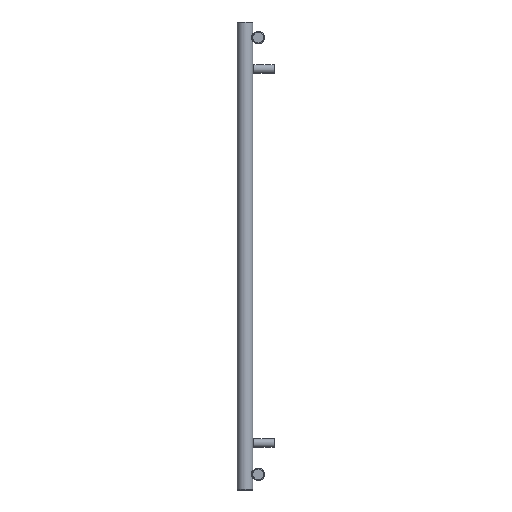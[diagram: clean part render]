
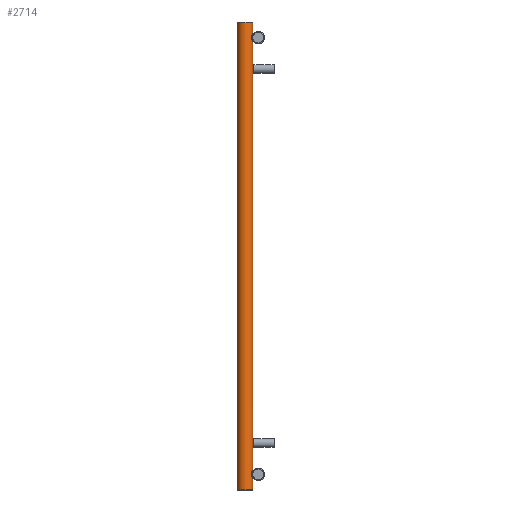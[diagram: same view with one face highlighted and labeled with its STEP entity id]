
A CAD part, left-side view. The second image highlights one B-rep face of the part: STEP entity #2714.
In plain terms, the highlighted cylindrical face has radius 20 mm (diameter 40 mm), a full revolution.
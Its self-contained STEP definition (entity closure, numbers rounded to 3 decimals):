
#194=FACE_BOUND('',#638,.T.);
#195=FACE_BOUND('',#639,.T.);
#247=LINE('',#4615,#328);
#328=VECTOR('',#3350,20.);
#409=CYLINDRICAL_SURFACE('',#2942,20.);
#448=FACE_OUTER_BOUND('',#637,.T.);
#637=EDGE_LOOP('',(#1883,#1884,#1885,#1886,#1887));
#638=EDGE_LOOP('',(#1888));
#639=EDGE_LOOP('',(#1889));
#866=B_SPLINE_CURVE_WITH_KNOTS('',3,(#4373,#4374,#4375,#4376,#4377,#4378,
#4379,#4380,#4381,#4382,#4383,#4384,#4385,#4386,#4387,#4388,#4389,#4390,
#4391,#4392),.UNSPECIFIED.,.T.,.F.,(4,1,1,1,1,1,1,1,1,1,1,1,1,1,1,1,1,4),
(-5.132,-4.765,-4.399,-3.91,
-3.788,-3.666,-3.421,-3.177,
-2.933,-2.444,-2.199,-1.955,
-1.711,-1.466,-1.1,-0.733,
-0.367,0.),.UNSPECIFIED.);
#877=B_SPLINE_CURVE_WITH_KNOTS('',3,(#4619,#4620,#4621,#4622,#4623,#4624,
#4625,#4626,#4627,#4628,#4629,#4630,#4631,#4632,#4633,#4634,#4635,#4636,
#4637,#4638),.UNSPECIFIED.,.T.,.F.,(4,1,1,1,1,1,1,1,1,1,1,1,1,1,1,1,1,4),
(-5.132,-4.765,-4.399,-3.91,
-3.788,-3.666,-3.421,-3.177,
-2.933,-2.444,-2.199,-1.955,-1.711,
-1.466,-1.1,-0.733,-0.367,
0.),.UNSPECIFIED.);
#949=CIRCLE('',#2943,20.);
#950=CIRCLE('',#2944,20.);
#951=CIRCLE('',#2945,20.);
#1171=VERTEX_POINT('',#4350);
#1185=VERTEX_POINT('',#4611);
#1186=VERTEX_POINT('',#4612);
#1187=VERTEX_POINT('',#4614);
#1188=VERTEX_POINT('',#4618);
#1453=EDGE_CURVE('',#1171,#1171,#866,.T.);
#1467=EDGE_CURVE('',#1185,#1186,#949,.T.);
#1468=EDGE_CURVE('',#1185,#1187,#247,.T.);
#1469=EDGE_CURVE('',#1187,#1187,#950,.T.);
#1470=EDGE_CURVE('',#1186,#1185,#951,.T.);
#1471=EDGE_CURVE('',#1188,#1188,#877,.T.);
#1883=ORIENTED_EDGE('',*,*,#1467,.F.);
#1884=ORIENTED_EDGE('',*,*,#1468,.T.);
#1885=ORIENTED_EDGE('',*,*,#1469,.F.);
#1886=ORIENTED_EDGE('',*,*,#1468,.F.);
#1887=ORIENTED_EDGE('',*,*,#1470,.F.);
#1888=ORIENTED_EDGE('',*,*,#1471,.F.);
#1889=ORIENTED_EDGE('',*,*,#1453,.F.);
#2714=ADVANCED_FACE('',(#448,#194,#195),#409,.T.);
#2942=AXIS2_PLACEMENT_3D('',#4610,#3346,#3347);
#2943=AXIS2_PLACEMENT_3D('',#4613,#3348,#3349);
#2944=AXIS2_PLACEMENT_3D('',#4616,#3351,#3352);
#2945=AXIS2_PLACEMENT_3D('',#4617,#3353,#3354);
#3346=DIRECTION('center_axis',(0.,0.,1.));
#3347=DIRECTION('ref_axis',(-1.,0.,0.));
#3348=DIRECTION('center_axis',(0.,0.,1.));
#3349=DIRECTION('ref_axis',(-1.,0.,0.));
#3350=DIRECTION('',(0.,0.,-1.));
#3351=DIRECTION('center_axis',(0.,0.,-1.));
#3352=DIRECTION('ref_axis',(-1.,0.,0.));
#3353=DIRECTION('center_axis',(0.,0.,1.));
#3354=DIRECTION('ref_axis',(-1.,0.,0.));
#4350=CARTESIAN_POINT('',(-550.,-20.,50.1));
#4373=CARTESIAN_POINT('Ctrl Pts',(-550.,-20.,50.1));
#4374=CARTESIAN_POINT('Ctrl Pts',(-551.611,-20.,50.1));
#4375=CARTESIAN_POINT('Ctrl Pts',(-554.831,-19.609,49.581));
#4376=CARTESIAN_POINT('Ctrl Pts',(-559.316,-17.863,46.748));
#4377=CARTESIAN_POINT('Ctrl Pts',(-561.001,-16.692,42.521));
#4378=CARTESIAN_POINT('Ctrl Pts',(-560.992,-16.709,39.163));
#4379=CARTESIAN_POINT('Ctrl Pts',(-560.668,-16.917,36.969));
#4380=CARTESIAN_POINT('Ctrl Pts',(-559.649,-17.555,34.431));
#4381=CARTESIAN_POINT('Ctrl Pts',(-557.536,-18.589,32.082));
#4382=CARTESIAN_POINT('Ctrl Pts',(-553.836,-19.82,30.088));
#4383=CARTESIAN_POINT('Ctrl Pts',(-549.419,-20.202,29.641));
#4384=CARTESIAN_POINT('Ctrl Pts',(-545.239,-19.503,30.58));
#4385=CARTESIAN_POINT('Ctrl Pts',(-542.466,-18.591,32.084));
#4386=CARTESIAN_POINT('Ctrl Pts',(-540.351,-17.553,34.428));
#4387=CARTESIAN_POINT('Ctrl Pts',(-538.927,-16.66,37.981));
#4388=CARTESIAN_POINT('Ctrl Pts',(-538.921,-16.659,42.599));
#4389=CARTESIAN_POINT('Ctrl Pts',(-541.137,-18.052,47.027));
#4390=CARTESIAN_POINT('Ctrl Pts',(-545.165,-19.6,49.585));
#4391=CARTESIAN_POINT('Ctrl Pts',(-548.389,-20.,50.1));
#4392=CARTESIAN_POINT('Ctrl Pts',(-550.,-20.,50.1));
#4610=CARTESIAN_POINT('Origin',(-550.,0.,0.));
#4611=CARTESIAN_POINT('',(-530.,0.,1198.));
#4612=CARTESIAN_POINT('',(-570.,0.,1198.));
#4613=CARTESIAN_POINT('Origin',(-550.,0.,1198.));
#4614=CARTESIAN_POINT('',(-530.,0.,2.));
#4615=CARTESIAN_POINT('',(-530.,0.,0.));
#4616=CARTESIAN_POINT('Origin',(-550.,0.,2.));
#4617=CARTESIAN_POINT('Origin',(-550.,0.,1198.));
#4618=CARTESIAN_POINT('',(-550.,-20.,1170.1));
#4619=CARTESIAN_POINT('Ctrl Pts',(-550.,-20.,1170.1));
#4620=CARTESIAN_POINT('Ctrl Pts',(-551.611,-20.,1170.1));
#4621=CARTESIAN_POINT('Ctrl Pts',(-554.831,-19.609,1169.581));
#4622=CARTESIAN_POINT('Ctrl Pts',(-559.316,-17.862,1166.749));
#4623=CARTESIAN_POINT('Ctrl Pts',(-561.002,-16.691,1162.521));
#4624=CARTESIAN_POINT('Ctrl Pts',(-560.992,-16.709,1159.164));
#4625=CARTESIAN_POINT('Ctrl Pts',(-560.668,-16.917,1156.97));
#4626=CARTESIAN_POINT('Ctrl Pts',(-559.649,-17.554,1154.432));
#4627=CARTESIAN_POINT('Ctrl Pts',(-557.536,-18.588,1152.083));
#4628=CARTESIAN_POINT('Ctrl Pts',(-553.836,-19.819,1150.088));
#4629=CARTESIAN_POINT('Ctrl Pts',(-549.419,-20.201,1149.641));
#4630=CARTESIAN_POINT('Ctrl Pts',(-545.24,-19.502,1150.581));
#4631=CARTESIAN_POINT('Ctrl Pts',(-542.467,-18.59,1152.084));
#4632=CARTESIAN_POINT('Ctrl Pts',(-540.351,-17.552,1154.428));
#4633=CARTESIAN_POINT('Ctrl Pts',(-538.927,-16.659,1157.981));
#4634=CARTESIAN_POINT('Ctrl Pts',(-538.921,-16.659,1162.599));
#4635=CARTESIAN_POINT('Ctrl Pts',(-541.137,-18.052,1167.028));
#4636=CARTESIAN_POINT('Ctrl Pts',(-545.165,-19.6,1169.585));
#4637=CARTESIAN_POINT('Ctrl Pts',(-548.389,-20.,1170.1));
#4638=CARTESIAN_POINT('Ctrl Pts',(-550.,-20.,1170.1));
